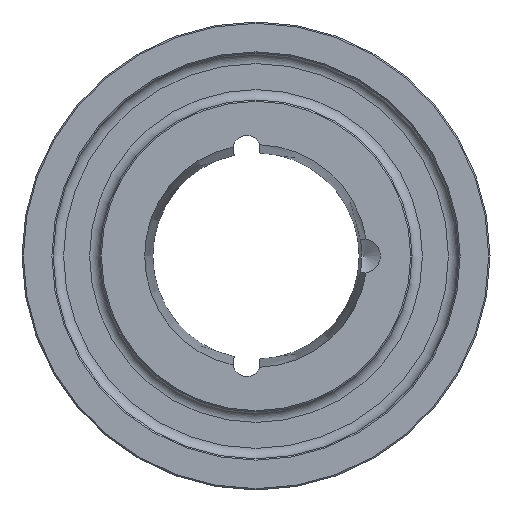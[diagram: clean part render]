
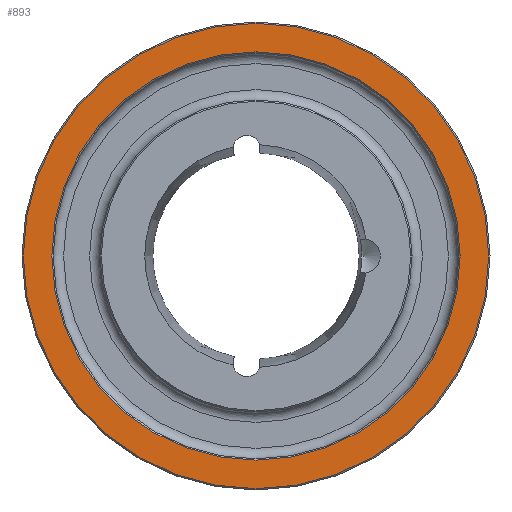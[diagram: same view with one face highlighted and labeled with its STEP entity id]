
A CAD part, left-side view. The second image highlights one B-rep face of the part: STEP entity #893.
In plain terms, the highlighted planar face has unit normal (-1, 0, 0).
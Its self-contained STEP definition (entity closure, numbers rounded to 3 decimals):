
#109=FACE_BOUND('',#368,.T.);
#120=PLANE('',#1048);
#225=FACE_OUTER_BOUND('',#367,.T.);
#367=EDGE_LOOP('',(#801));
#368=EDGE_LOOP('',(#802));
#454=CIRCLE('',#1047,78.5);
#455=CIRCLE('',#1049,89.5);
#543=VERTEX_POINT('',#1678);
#544=VERTEX_POINT('',#1681);
#631=EDGE_CURVE('',#543,#543,#454,.T.);
#632=EDGE_CURVE('',#544,#544,#455,.T.);
#801=ORIENTED_EDGE('',*,*,#632,.F.);
#802=ORIENTED_EDGE('',*,*,#631,.T.);
#893=ADVANCED_FACE('',(#225,#109),#120,.T.);
#1047=AXIS2_PLACEMENT_3D('',#1679,#1353,#1354);
#1048=AXIS2_PLACEMENT_3D('',#1680,#1355,#1356);
#1049=AXIS2_PLACEMENT_3D('',#1682,#1357,#1358);
#1353=DIRECTION('center_axis',(1.,0.,0.));
#1354=DIRECTION('ref_axis',(0.,0.,-1.));
#1355=DIRECTION('center_axis',(-1.,0.,0.));
#1356=DIRECTION('ref_axis',(0.,0.,1.));
#1357=DIRECTION('center_axis',(1.,0.,0.));
#1358=DIRECTION('ref_axis',(0.,0.,-1.));
#1678=CARTESIAN_POINT('',(-10.405,159.006,0.));
#1679=CARTESIAN_POINT('Origin',(-10.405,80.506,0.));
#1680=CARTESIAN_POINT('Origin',(-10.405,170.006,0.));
#1681=CARTESIAN_POINT('',(-10.405,170.006,0.));
#1682=CARTESIAN_POINT('Origin',(-10.405,80.506,0.));
